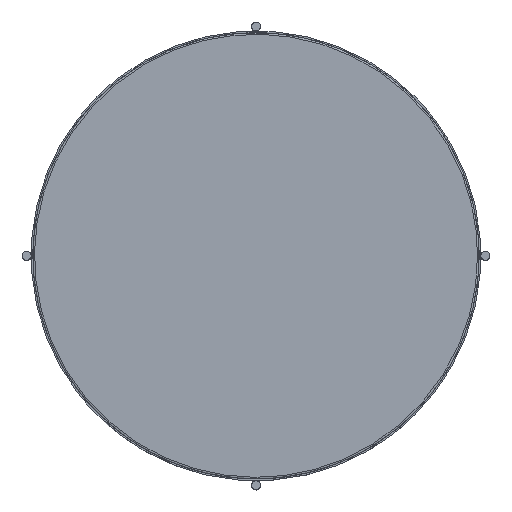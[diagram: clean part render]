
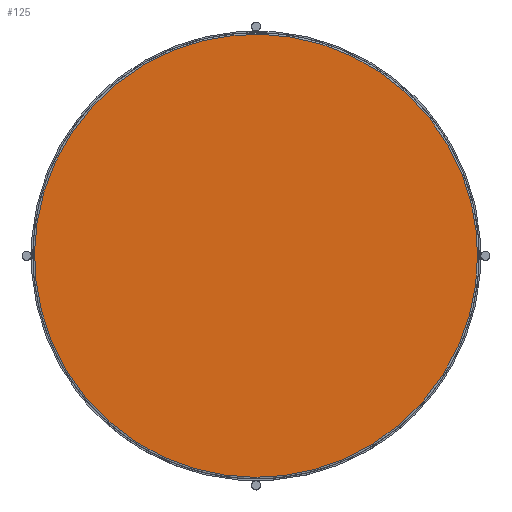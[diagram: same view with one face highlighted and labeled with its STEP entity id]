
A CAD part, top view. The second image highlights one B-rep face of the part: STEP entity #125.
In plain terms, the highlighted planar face has unit normal (0, 0, 1).
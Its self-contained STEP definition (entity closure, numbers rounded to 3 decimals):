
#125=ADVANCED_FACE('',(#214),#1313,.T.);
#214=FACE_OUTER_BOUND('',#303,.T.);
#303=EDGE_LOOP('',(#425));
#425=ORIENTED_EDGE('',*,*,#840,.F.);
#840=EDGE_CURVE('',#1186,#1186,#1048,.T.);
#1048=(
BOUNDED_CURVE()
B_SPLINE_CURVE(2,(#1566,#1567,#1568,#1569,#1570,#1571,#1572,#1573,#1574),
 .UNSPECIFIED.,.T.,.F.)
B_SPLINE_CURVE_WITH_KNOTS((3,2,2,2,3),(0.,618.894,1237.787,
1856.681,2475.575),.UNSPECIFIED.)
CURVE()
GEOMETRIC_REPRESENTATION_ITEM()
RATIONAL_B_SPLINE_CURVE((1.,0.707,1.,0.707,1.,0.707,
1.,0.707,1.))
REPRESENTATION_ITEM('')
);
#1186=VERTEX_POINT('',#1550);
#1313=PLANE('',#1412);
#1412=AXIS2_PLACEMENT_3D('',#1492,#1443,$);
#1443=DIRECTION('',(0.,0.,1.));
#1492=CARTESIAN_POINT('',(-496.25,496.25,400.));
#1550=CARTESIAN_POINT('',(394.,0.,400.));
#1566=CARTESIAN_POINT('',(394.,0.,400.));
#1567=CARTESIAN_POINT('',(394.,-394.,400.));
#1568=CARTESIAN_POINT('',(0.,-394.,400.));
#1569=CARTESIAN_POINT('',(-394.,-394.,400.));
#1570=CARTESIAN_POINT('',(-394.,0.,400.));
#1571=CARTESIAN_POINT('',(-394.,394.,400.));
#1572=CARTESIAN_POINT('',(0.,394.,400.));
#1573=CARTESIAN_POINT('',(394.,394.,400.));
#1574=CARTESIAN_POINT('',(394.,0.,400.));
